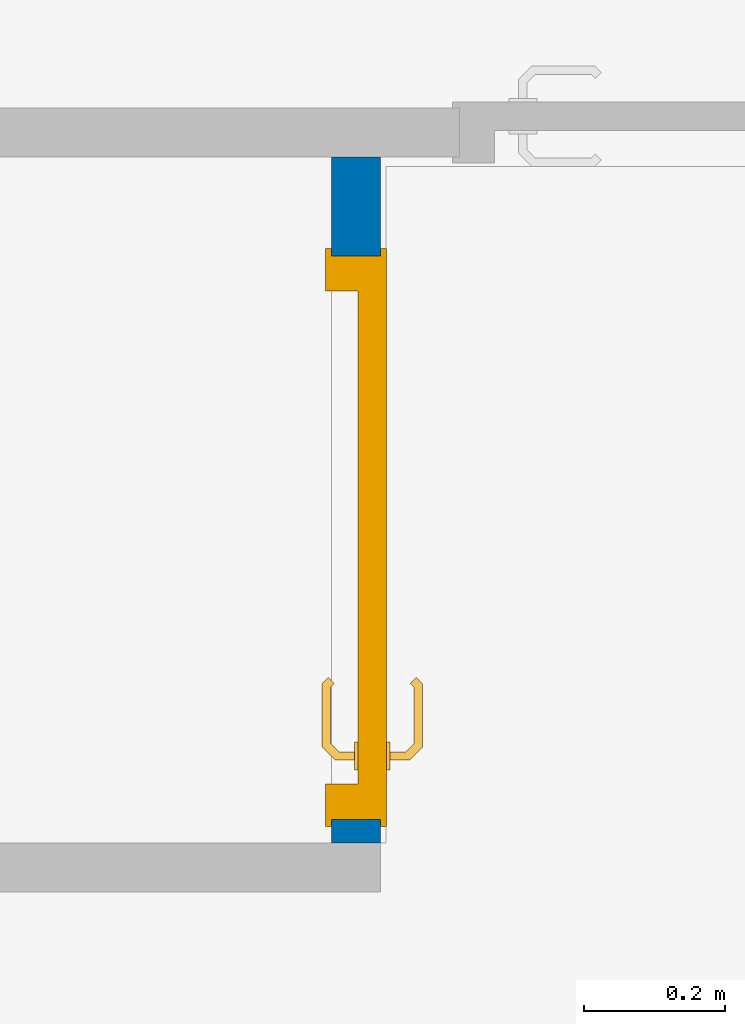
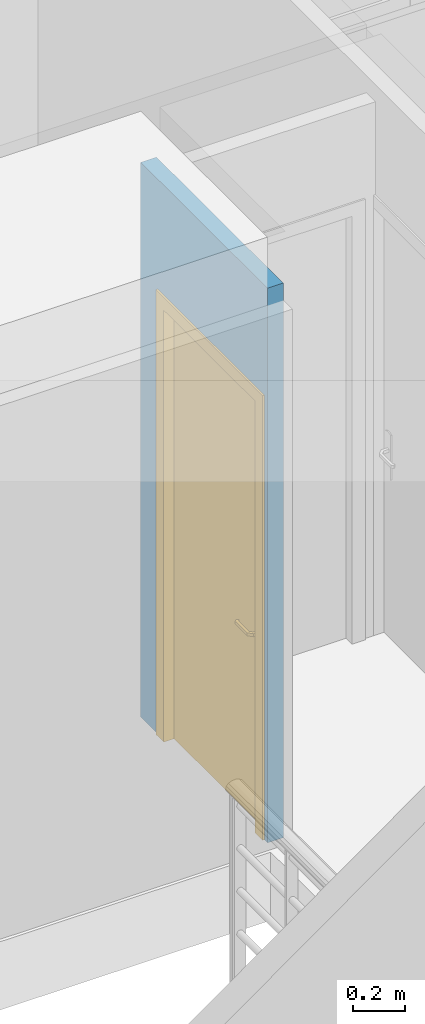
# One storey, part 38 of 50: 1 door, 1 wall, 1 opening.
"""IFC2X3 building model written with IfcOpenShell, lengths in metres."""

from ifc_helpers import new_model, entity, si_unit, converted_unit, derived_unit, direction, frame, frame_2d, origin, place, context, subcontext, project, spatial, rectangle, extrude, faceted_brep, source, transform, mapped, material, material_list, layer, layer_set, layer_usage, type_object, type_shapes, element, fill, save


model = new_model("IFC2X3")

# Units and contexts
model_context = context("Model", 3, precision=1e-05, world=origin(), true_north=direction((6.12303176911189e-17, 1.0)))
context_of_model = context(None, 3, precision=1e-05, world=origin(), true_north=direction((6.12303176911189e-17, 1.0)))
body_context = subcontext(model_context, "Body", "Model", "MODEL_VIEW")
ifc_project = project(units=[si_unit("LENGTHUNIT", "METRE"), si_unit("AREAUNIT", "SQUARE_METRE"), si_unit("VOLUMEUNIT", "CUBIC_METRE"), converted_unit("PLANEANGLEUNIT", "DEGREE", entity("IfcRatioMeasure", 0.0174532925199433), si_unit("PLANEANGLEUNIT", "RADIAN"), dimensions=[0, 0, 0, 0, 0, 0, 0]), si_unit("MASSUNIT", "GRAM", prefix="KILO"), si_unit("TIMEUNIT", "SECOND"), si_unit("FREQUENCYUNIT", "HERTZ"), si_unit("THERMODYNAMICTEMPERATUREUNIT", "DEGREE_CELSIUS"), derived_unit("THERMALTRANSMITTANCEUNIT", [(si_unit("MASSUNIT", "GRAM", prefix="KILO"), 1), (si_unit("THERMODYNAMICTEMPERATUREUNIT", "KELVIN"), -1), (si_unit("TIMEUNIT", "SECOND"), -3)]), derived_unit("VOLUMETRICFLOWRATEUNIT", [(si_unit("LENGTHUNIT", "METRE"), 3), (si_unit("TIMEUNIT", "SECOND"), -1)]), si_unit("ELECTRICCURRENTUNIT", "AMPERE"), si_unit("ELECTRICVOLTAGEUNIT", "VOLT"), si_unit("POWERUNIT", "WATT"), si_unit("FORCEUNIT", "NEWTON", prefix="KILO"), si_unit("ILLUMINANCEUNIT", "LUX"), si_unit("LUMINOUSFLUXUNIT", "LUMEN"), si_unit("LUMINOUSINTENSITYUNIT", "CANDELA"), si_unit("PRESSUREUNIT", "PASCAL")], contexts=[model_context, context_of_model])

# Site, building, storey
site_placement = place(None, origin())
site = spatial("IfcSite", under=ifc_project, at=site_placement, Name="Surface", CompositionType="ELEMENT")
building_placement = place(site_placement, origin())
building = spatial("IfcBuilding", under=site, at=building_placement, CompositionType="ELEMENT")
storey_placement = place(building_placement, frame((0.0, 0.0, 2.82)))
storey = spatial("IfcBuildingStorey", under=building, at=storey_placement, Name="ETAGE", CompositionType="ELEMENT", Elevation=2.82)

# Wall, opening, door
ifc_material_1 = material(Name="Peinture - Blanc")
ifc_layer = layer(ifc_material_1, 0.07)
ifc_layer_set = layer_set([ifc_layer], Name="Mur de base:Int.  Platre 70 mm en blanc")
ifc_layer_usage = layer_usage(ifc_layer_set, "AXIS2", "NEGATIVE", 0.035)
wall_type = type_object("IfcWallType", Name="Mur de base:Int.  Platre 70 mm en blanc", PredefinedType="STANDARD", material=ifc_layer_set)
wall_placement = place(storey_placement, frame((86.4734515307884, 88.5842045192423, 0.0), z_axis=(0.0, 0.0, 1.0), x_axis=(0.0, 1.0, 0.0)))
wall = element("IfcWallStandardCase", 1, at=wall_placement, inside=storey, type_object=wall_type, material=ifc_layer_usage, Name="Mur de base:Int.  Platre 70 mm en blanc", ObjectType="Mur de base:Int.  Platre 70 mm en blanc", context=body_context, shape_type="SweptSolid", body=[
    extrude(rectangle(XDim=0.973319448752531, YDim=0.0699999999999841, at=frame_2d((0.486659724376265, 0.0), x_axis=(-1.0, 0.0))), origin(), (0.0, 0.0, 1.0), 2.6),
])
opening_placement = place(wall_placement, frame((0.833319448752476, 0.035, 0.0)))
opening = element("IfcOpeningElement", 2, at=opening_placement, cuts=wall, Name="FR_Simple (R):73 x 204 - (70):1", ObjectType="Opening", context=body_context, shape_type="SweptSolid", body=[
    extrude(rectangle(XDim=2.075, YDim=0.799999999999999, at=frame_2d((1.0375, 0.400000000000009), x_axis=(1.0, 0.0))), frame((0.0, 0.0, 0.0), z_axis=(0.0, -1.0, 0.0), x_axis=(0.0, 0.0, 1.0)), (0.0, 0.0, 1.0), 0.07),
])
ifc_material_2 = material(Name="Poignée Porte")
ifc_material_3 = material(Name="Dormants Portes")
ifc_material_4 = material(Name="Panneaux Portes")
ifc_material_list_1 = material_list([ifc_material_2, ifc_material_3, ifc_material_4])
ifc_material_list_2 = material_list([ifc_material_2, ifc_material_3, ifc_material_4])
door_style = type_object("IfcDoorStyle", Name="73 x 204 - (70)", ConstructionType="NOTDEFINED", OperationType="SINGLE_SWING_LEFT", ParameterTakesPrecedence=False, Sizeable=False, material=ifc_material_list_2)
shared_shape = source(origin(), body_context, "Body", "Brep", [
    faceted_brep([(0.100352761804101, -0.0130000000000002, 0.766003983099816), (0.11, -0.0130000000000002, 0.770000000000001), (0.11, -0.0130000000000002, 0.980000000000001), (0.100352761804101, -0.0130000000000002, 0.983996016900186), (0.0900000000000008, -0.0130000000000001, 0.985358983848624), (0.0796472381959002, -0.0130000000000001, 0.983996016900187), (0.0700000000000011, -0.0130000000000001, 0.980000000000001), (0.0700000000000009, -0.0130000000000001, 0.770000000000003), (0.0796472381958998, -0.0130000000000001, 0.766003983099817), (0.0900000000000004, -0.0130000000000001, 0.764641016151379), (0.100352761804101, -0.00800000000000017, 0.983996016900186), (0.11, -0.00800000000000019, 0.980000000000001), (0.11, -0.00800000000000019, 0.770000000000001), (0.100352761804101, -0.00800000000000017, 0.766003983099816), (0.0900000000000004, -0.00800000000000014, 0.764641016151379), (0.0796472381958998, -0.0080000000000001, 0.766003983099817), (0.0700000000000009, -0.00800000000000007, 0.770000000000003), (0.0700000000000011, -0.00800000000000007, 0.980000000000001), (0.0796472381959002, -0.0080000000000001, 0.983996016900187), (0.0900000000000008, -0.00800000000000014, 0.985358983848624)], [[[0, 1, 2, 3, 4, 5, 6, 7, 8, 9]], [[10, 11, 12, 13, 14, 15, 16, 17, 18, 19]], [[16, 15, 8, 7]], [[8, 15, 14, 9]], [[14, 13, 0, 9]], [[13, 12, 1, 0]], [[2, 1, 12, 11]], [[11, 10, 3, 2]], [[3, 10, 19, 4]], [[19, 18, 5, 4]], [[18, 17, 6, 5]], [[7, 6, 17, 16]]]),
    faceted_brep([(0.100352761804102, 0.0319999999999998, 0.766003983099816), (0.110000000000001, 0.0319999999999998, 0.770000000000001), (0.11, 0.0319999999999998, 0.980000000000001), (0.100352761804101, 0.0319999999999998, 0.983996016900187), (0.0900000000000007, 0.0319999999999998, 0.985358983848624), (0.0796472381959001, 0.0319999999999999, 0.983996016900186), (0.0700000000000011, 0.0319999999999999, 0.980000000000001), (0.0700000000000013, 0.0319999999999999, 0.770000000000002), (0.0796472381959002, 0.0319999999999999, 0.766003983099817), (0.0900000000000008, 0.0319999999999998, 0.764641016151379), (0.100352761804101, 0.0369999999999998, 0.983996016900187), (0.11, 0.0369999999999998, 0.980000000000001), (0.110000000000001, 0.0369999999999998, 0.770000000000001), (0.100352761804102, 0.0369999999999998, 0.766003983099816), (0.0900000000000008, 0.0369999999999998, 0.764641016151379), (0.0796472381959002, 0.0369999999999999, 0.766003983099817), (0.0700000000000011, 0.0369999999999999, 0.770000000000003), (0.0700000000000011, 0.0369999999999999, 0.980000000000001), (0.0796472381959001, 0.0369999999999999, 0.983996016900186), (0.0900000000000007, 0.0369999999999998, 0.985358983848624)], [[[0, 1, 2, 3, 4, 5, 6, 7, 8, 9]], [[10, 11, 12, 13, 14, 15, 16, 17, 18, 19]], [[11, 10, 3, 2]], [[3, 10, 19, 4]], [[19, 18, 5, 4]], [[18, 17, 6, 5]], [[7, 6, 17, 16]], [[16, 15, 8, 7]], [[8, 15, 14, 9]], [[14, 13, 0, 9]], [[13, 12, 1, 0]], [[2, 1, 12, 11]]]),
    faceted_brep([(0.0879747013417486, -0.0130000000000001, 0.907780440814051), (0.0920252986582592, -0.0130000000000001, 0.907780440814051), (0.0960000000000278, -0.0130000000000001, 0.906999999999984), (0.0960000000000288, -0.0130000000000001, 0.893000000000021), (0.0920252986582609, -0.0130000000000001, 0.89221955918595), (0.0879747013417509, -0.0130000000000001, 0.892219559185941), (0.0839999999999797, -0.0130000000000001, 0.892999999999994), (0.0839999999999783, -0.0130000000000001, 0.90699999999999), (0.083999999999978, -0.0406509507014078, 0.906999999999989), (0.0879747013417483, -0.0390045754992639, 0.907780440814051), (0.104023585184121, -0.0550534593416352, 0.907780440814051), (0.105701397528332, -0.0510028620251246, 0.907780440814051), (0.0920252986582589, -0.0373267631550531, 0.907780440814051), (0.198521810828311, -0.0473891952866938, 0.90778044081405), (0.195657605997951, -0.0445249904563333, 0.90778044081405), (0.18917973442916, -0.0510028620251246, 0.90778044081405), (0.190857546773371, -0.0550534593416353, 0.90778044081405), (0.0960000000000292, -0.0356803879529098, 0.90699999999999), (0.0960000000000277, -0.0356803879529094, 0.893000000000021), (0.0920252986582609, -0.0373267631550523, 0.89221955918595), (0.105701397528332, -0.0510028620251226, 0.89221955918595), (0.104023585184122, -0.0550534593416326, 0.89221955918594), (0.0879747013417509, -0.0390045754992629, 0.89221955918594), (0.195657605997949, -0.044524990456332, 0.89221955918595), (0.19852181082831, -0.0473891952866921, 0.89221955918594), (0.19085754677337, -0.0550534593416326, 0.89221955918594), (0.18917973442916, -0.0510028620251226, 0.89221955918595), (0.0839999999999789, -0.0406509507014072, 0.892999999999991), (0.102377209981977, -0.0590281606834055, 0.906999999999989), (0.107347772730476, -0.0470281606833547, 0.90699999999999), (0.107347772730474, -0.0470281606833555, 0.893000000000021), (0.102377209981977, -0.0590281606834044, 0.892999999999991), (0.142307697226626, -0.0590281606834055, 0.906999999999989), (0.147440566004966, -0.053182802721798, 0.907878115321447), (0.192503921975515, -0.0590281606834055, 0.906999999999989), (0.147440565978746, -0.0470281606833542, 0.90699999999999), (0.187533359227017, -0.0470281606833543, 0.906999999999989), (0.187533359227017, -0.0470281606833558, 0.89300000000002), (0.147440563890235, -0.0470281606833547, 0.893000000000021), (0.147440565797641, -0.0531828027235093, 0.892121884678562), (0.192503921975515, -0.0590281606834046, 0.892999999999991), (0.152573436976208, -0.0590281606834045, 0.892999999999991), (0.192847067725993, -0.0417144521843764, 0.906999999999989), (0.201332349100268, -0.0501997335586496, 0.906999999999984), (0.201332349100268, -0.05019973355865, 0.892999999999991), (0.192847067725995, -0.0417144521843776, 0.893000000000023)], [[[0, 1, 2, 3, 4, 5, 6, 7]], [[8, 9, 0, 7]], [[9, 10, 11, 12, 1, 0]], [[13, 14, 15, 16]], [[12, 17, 2, 1]], [[3, 2, 17, 18]], [[18, 19, 4, 3]], [[19, 20, 21, 22, 5, 4]], [[23, 24, 25, 26]], [[22, 27, 6, 5]], [[7, 6, 27, 8]], [[28, 10, 9, 8]], [[11, 29, 17, 12]], [[18, 17, 29, 30]], [[30, 20, 19, 18]], [[21, 31, 27, 22]], [[8, 27, 31, 28]], [[32, 33, 10]], [[33, 32, 16]], [[10, 28, 32]], [[34, 16, 32]], [[33, 35, 11]], [[11, 10, 33]], [[15, 35, 33]], [[29, 11, 35]], [[35, 15, 36]], [[15, 33, 16]], [[30, 29, 35, 36, 37, 38]], [[20, 38, 39]], [[25, 40, 41]], [[31, 21, 41]], [[41, 21, 39]], [[39, 38, 26]], [[26, 25, 39]], [[38, 20, 30]], [[37, 26, 38]], [[20, 39, 21]], [[41, 39, 25]], [[28, 31, 41, 40, 34, 32]], [[42, 14, 13, 43, 44, 24, 23, 45]], [[43, 13, 16, 34]], [[14, 42, 36, 15]], [[37, 36, 42, 45]], [[45, 23, 26, 37]], [[24, 44, 40, 25]], [[34, 40, 44, 43]]]),
    faceted_brep([(0.0879747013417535, 0.0369999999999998, 0.892219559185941), (0.092025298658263, 0.0369999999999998, 0.892219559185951), (0.0960000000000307, 0.0369999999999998, 0.893000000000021), (0.096000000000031, 0.0369999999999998, 0.90699999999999), (0.0920252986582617, 0.0369999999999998, 0.907780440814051), (0.0879747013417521, 0.0369999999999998, 0.907780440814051), (0.0839999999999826, 0.0369999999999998, 0.90699999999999), (0.0839999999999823, 0.0369999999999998, 0.892999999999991), (0.0960000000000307, 0.0594852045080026, 0.893000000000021), (0.0960000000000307, 0.0594852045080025, 0.90699999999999), (0.092025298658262, 0.0611315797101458, 0.907780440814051), (0.105838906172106, 0.0749451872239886, 0.907780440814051), (0.104161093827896, 0.0789957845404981, 0.907780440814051), (0.0879747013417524, 0.0628093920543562, 0.907780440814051), (0.195684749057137, 0.0684673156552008, 0.907780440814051), (0.198548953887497, 0.071331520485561, 0.907780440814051), (0.190884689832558, 0.0789957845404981, 0.907780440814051), (0.189206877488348, 0.0749451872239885, 0.907780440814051), (0.0839999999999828, 0.0644557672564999, 0.90699999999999), (0.0839999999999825, 0.0644557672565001, 0.892999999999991), (0.0879747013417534, 0.0628093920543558, 0.892219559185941), (0.104161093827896, 0.0789957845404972, 0.892219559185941), (0.105838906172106, 0.0749451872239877, 0.892219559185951), (0.0920252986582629, 0.0611315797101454, 0.892219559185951), (0.198548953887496, 0.07133152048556, 0.89221955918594), (0.195684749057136, 0.0684673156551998, 0.89221955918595), (0.189206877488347, 0.0749451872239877, 0.89221955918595), (0.190884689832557, 0.0789957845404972, 0.89221955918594), (0.107485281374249, 0.0709704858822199, 0.893000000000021), (0.107485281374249, 0.0709704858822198, 0.90699999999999), (0.102514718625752, 0.0829704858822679, 0.90699999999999), (0.102514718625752, 0.0829704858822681, 0.892999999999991), (0.147522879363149, 0.0709704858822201, 0.89300000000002), (0.187560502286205, 0.0709704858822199, 0.89300000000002), (0.187560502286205, 0.0709704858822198, 0.90699999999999), (0.147522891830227, 0.0709704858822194, 0.90699999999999), (0.147522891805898, 0.0771249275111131, 0.907878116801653), (0.192531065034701, 0.0829704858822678, 0.90699999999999), (0.152600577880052, 0.0829704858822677, 0.90699999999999), (0.192531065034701, 0.082970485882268, 0.892999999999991), (0.142445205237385, 0.0829704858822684, 0.892999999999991), (0.147522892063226, 0.0771249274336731, 0.892121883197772), (0.192874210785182, 0.0656567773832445, 0.89300000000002), (0.201359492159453, 0.0741420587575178, 0.892999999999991), (0.201359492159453, 0.0741420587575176, 0.90699999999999), (0.192874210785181, 0.0656567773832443, 0.90699999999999)], [[[0, 1, 2, 3, 4, 5, 6, 7]], [[3, 2, 8, 9]], [[9, 10, 4, 3]], [[10, 11, 12, 13, 5, 4]], [[14, 15, 16, 17]], [[13, 18, 6, 5]], [[7, 6, 18, 19]], [[19, 20, 0, 7]], [[20, 21, 22, 23, 1, 0]], [[24, 25, 26, 27]], [[23, 8, 2, 1]], [[9, 8, 28, 29]], [[29, 11, 10, 9]], [[12, 30, 18, 13]], [[19, 18, 30, 31]], [[31, 21, 20, 19]], [[22, 28, 8, 23]], [[28, 32, 33, 34, 35, 29]], [[11, 35, 36]], [[16, 37, 38]], [[30, 12, 38]], [[38, 12, 36]], [[36, 35, 17]], [[17, 16, 36]], [[35, 11, 29]], [[34, 17, 35]], [[11, 36, 12]], [[38, 36, 16]], [[31, 30, 38, 37, 39, 40]], [[40, 41, 21]], [[41, 40, 27]], [[21, 31, 40]], [[39, 27, 40]], [[41, 32, 22]], [[22, 21, 41]], [[26, 32, 41]], [[28, 22, 32]], [[32, 26, 33]], [[26, 41, 27]], [[42, 25, 24, 43, 44, 15, 14, 45]], [[34, 33, 42, 45]], [[45, 14, 17, 34]], [[15, 44, 37, 16]], [[39, 37, 44, 43]], [[43, 24, 27, 39]], [[25, 42, 33, 26]]]),
    faceted_brep([(0.0, 0.0, 0.0), (0.0, 0.0700000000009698, 0.0), (-0.00999999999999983, 0.0700000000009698, 0.0), (-0.00999999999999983, 0.0780000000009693, 0.0), (0.0499999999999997, 0.0780000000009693, 0.0), (0.0499999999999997, 0.032, 0.0), (0.0350000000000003, 0.032, 0.0), (0.0350000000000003, -0.00799999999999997, 0.0), (-0.00999999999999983, -0.00799999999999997, 0.0), (-0.00999999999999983, 0.0, 0.0), (0.0, 0.0, 2.075), (0.0, 0.0700000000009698, 2.075), (0.799999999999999, 0.0700000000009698, 2.075), (0.799999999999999, 0.0700000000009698, 0.0), (0.809999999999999, 0.0700000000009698, 0.0), (0.809999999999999, 0.0700000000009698, 2.085), (-0.00999999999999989, 0.0700000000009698, 2.085), (-0.00999999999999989, 0.0780000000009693, 2.085), (0.809999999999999, 0.0780000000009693, 2.085), (0.809999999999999, 0.0780000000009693, 0.0), (0.75, 0.0780000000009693, 0.0), (0.75, 0.0780000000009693, 2.025), (0.0499999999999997, 0.0780000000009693, 2.025), (0.0499999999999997, 0.032, 2.025), (0.75, 0.032, 2.025), (0.75, 0.032, 0.0), (0.764999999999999, 0.032, 0.0), (0.764999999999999, 0.032, 2.04), (0.0350000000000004, 0.032, 2.04), (0.0350000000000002, -0.00799999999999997, 2.04), (0.764999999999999, -0.00799999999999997, 2.04), (0.764999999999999, -0.00799999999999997, 0.0), (0.809999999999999, -0.00799999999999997, 0.0), (0.809999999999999, -0.00799999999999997, 2.085), (-0.00999999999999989, -0.00799999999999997, 2.085), (-0.00999999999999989, 0.0, 2.085), (0.809999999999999, 0.0, 2.085), (0.809999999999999, 0.0, 0.0), (0.799999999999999, 0.0, 0.0), (0.799999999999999, 0.0, 2.075)], [[[0, 1, 2, 3, 4, 5, 6, 7, 8, 9]], [[1, 0, 10, 11]], [[2, 1, 11, 12, 13, 14, 15, 16]], [[3, 2, 16, 17]], [[4, 3, 17, 18, 19, 20, 21, 22]], [[5, 4, 22, 23]], [[6, 5, 23, 24, 25, 26, 27, 28]], [[7, 6, 28, 29]], [[8, 7, 29, 30, 31, 32, 33, 34]], [[9, 8, 34, 35]], [[0, 9, 35, 36, 37, 38, 39, 10]], [[11, 10, 39, 12]], [[17, 16, 15, 18]], [[23, 22, 21, 24]], [[29, 28, 27, 30]], [[35, 34, 33, 36]], [[38, 37, 32, 31, 26, 25, 20, 19, 14, 13]], [[12, 39, 38, 13]], [[18, 15, 14, 19]], [[24, 21, 20, 25]], [[30, 27, 26, 31]], [[36, 33, 32, 37]]]),
    faceted_brep([(0.0350000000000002, -0.00799999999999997, 2.04), (0.0350000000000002, -0.00799999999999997, 0.0), (0.764999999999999, -0.00799999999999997, 0.0), (0.764999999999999, -0.00799999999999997, 2.04), (0.0350000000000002, 0.032, 2.04), (0.764999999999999, 0.032, 2.04), (0.764999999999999, 0.032, 0.0), (0.0350000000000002, 0.032, 0.0)], [[[0, 1, 2, 3]], [[4, 5, 6, 7]], [[1, 0, 4, 7]], [[2, 1, 7, 6]], [[3, 2, 6, 5]], [[0, 3, 5, 4]]]),
])
type_shapes(door_style, [shared_shape])
door_placement = place(opening_placement, frame((-0.800000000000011, -0.0699999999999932, 0.0)))
door = element("IfcDoor", 3, at=door_placement, inside=storey, type_object=door_style, material=ifc_material_list_1, Name="FR_Simple (R):73 x 204 - (70)", ObjectType="73 x 204 - (70)", OverallHeight=2.075, OverallWidth=0.800000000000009, context=body_context, shape_type="MappedRepresentation", body=[
    mapped(shared_shape, transform((0.0, 0.0, 0.0), scale=1.0)),
])
fill(opening, door)

save(model, "model.ifc")
